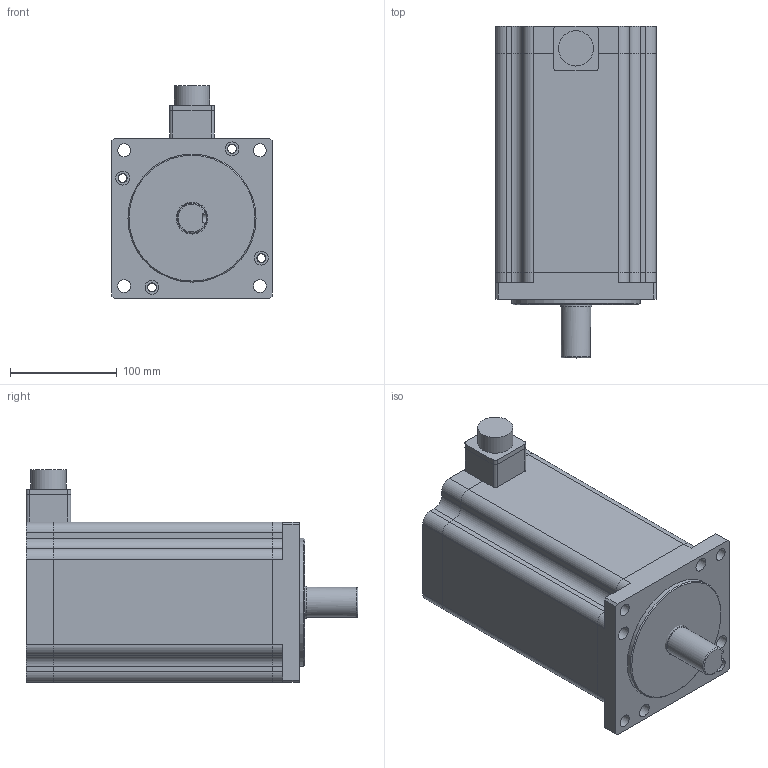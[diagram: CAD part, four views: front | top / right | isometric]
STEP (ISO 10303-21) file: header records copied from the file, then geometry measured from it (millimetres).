
FILE_DESCRIPTION(/* description */ (''),/* implementation_level */ '2;1');
FILE_NAME(/* name */ '150BYG350C.stp',/* time_stamp */ '2024-08-16T16:07:53+08:00',/* author */ (''),/* organization */ (''),/* preprocessor_version */ 'ST-DEVELOPER v18.1',/* originating_system */ 'SIEMENS PLM Software NX 2000',/* authorisation */ '');
FILE_SCHEMA (('AUTOMOTIVE_DESIGN { 1 0 10303 214 3 1 1 1 }'));
Length unit declared in the file: millimetre
Products named in the file (1): 925032A4A3696vam
Bounding box: 150 x 311 x 199 mm (x, y, z)
Volume: 5252439.6 mm3; surface area: 317920.2 mm2
Topology: 6 solids, 6 shells, 149 faces, 392 edges, 265 vertices
Faces by surface type: plane 76, cylinder 71, cone 1, torus 1
Full cylindrical faces by diameter (mm): 8 x4, 8.5 x8, 12 x4, 13 x4, 28 x1, 29.8 x1, 30 x1, 33 x1, 120 x1, 138.5 x1
Entity records: 4617 total; most frequent: CARTESIAN_POINT 820, DIRECTION 796, ORIENTED_EDGE 710, EDGE_CURVE 355, AXIS2_PLACEMENT_3D 293, VERTEX_POINT 254, EDGE_LOOP 217, LINE 210
